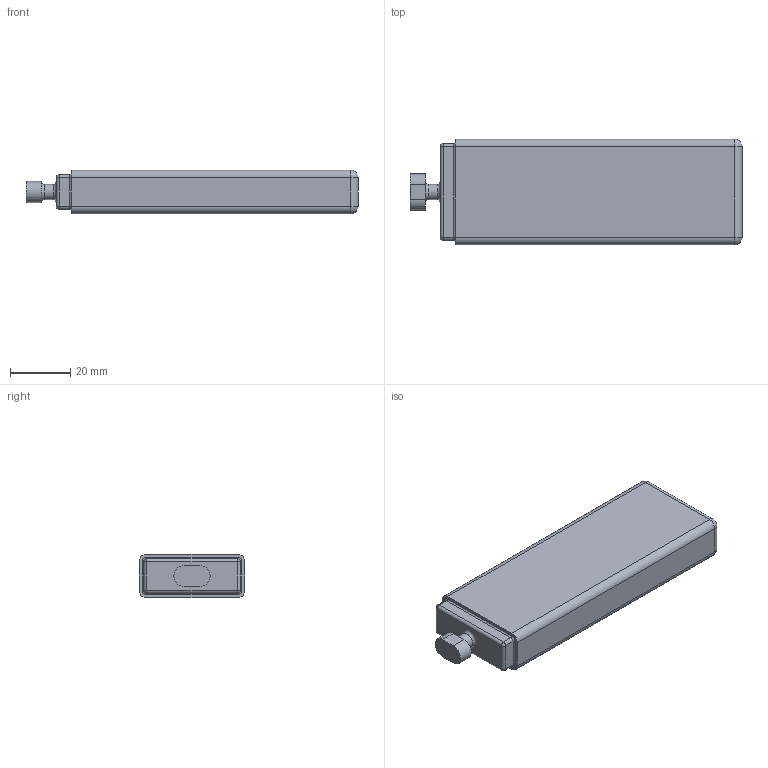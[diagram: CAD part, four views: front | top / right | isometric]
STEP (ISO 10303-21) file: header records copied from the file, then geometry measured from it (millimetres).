
FILE_DESCRIPTION(/* description */ (''),/* implementation_level */ '2;1');
FILE_NAME(/* name */ 'C:/Users/harry/OneDrive - University of Bristol/PhD/COVID/Clean Access/CAD/T Pen.step',/* time_stamp */ '2020-05-11T13:45:28+01:00',/* author */ (''),/* organization */ (''),/* preprocessor_version */ 'ST-DEVELOPER v18.1',/* originating_system */ 'Autodesk Translation Framework v9.2.0.1227',/* authorisation */ '');
FILE_SCHEMA (('AUTOMOTIVE_DESIGN { 1 0 10303 214 3 1 1 }'));
Length unit declared in the file: millimetre
Products named in the file (1): pen
Bounding box: 110 x 35 x 14.5 mm (x, y, z)
Volume: 49875.8 mm3; surface area: 10601.9 mm2
Topology: 1 solids, 1 shells, 53 faces, 112 edges, 63 vertices
Faces by surface type: cylinder 23, plane 16, sphere 8, torus 6
Full cylindrical faces by diameter (mm): 5 x1
Entity records: 1436 total; most frequent: DIRECTION 277, CARTESIAN_POINT 229, ORIENTED_EDGE 224, EDGE_CURVE 112, AXIS2_PLACEMENT_3D 111, VERTEX_POINT 63, CIRCLE 57, EDGE_LOOP 55
